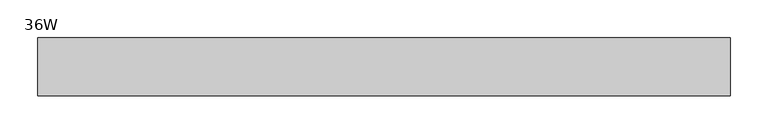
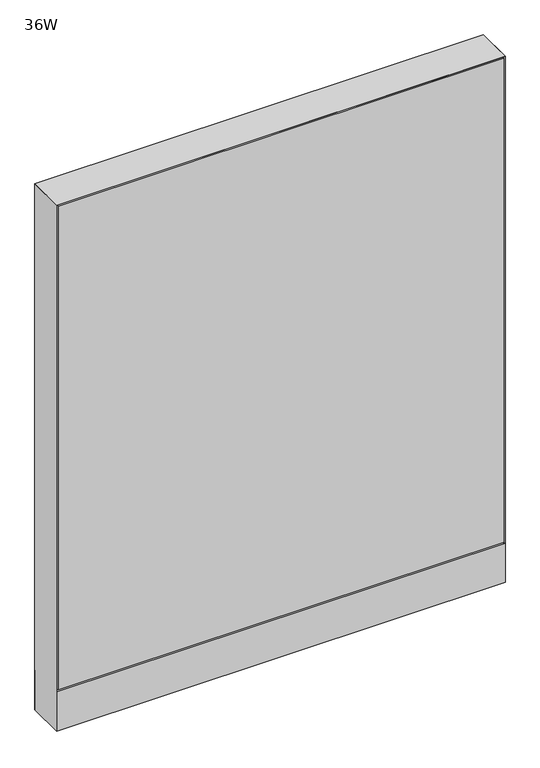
"""IFC4 building model written with IfcOpenShell, lengths in millimetres: furniture geometry, Steelcase - Montage - Frame - 45H - Enhanced Monolithic - Base Cavity : 36W."""

from ifc_helpers import new_model, si_unit, point, frame, frame_2d, origin, origin_with_axes, place, context, project, spatial, polyline, circle_curve, trimmed, segment, composite_curve, outline, extrude, faceted_brep, source, transform, mapped, element, save


def furniture_36w_5fb26eae(model_context):
    return source(origin(), model_context, "Body", "SolidModel", [
        extrude(outline(polyline([(3.175, 31.7500194), (3.175, 38.1000194), (911.225, 38.1000194), (911.225, 31.7500194), (3.175, 31.7500194)])), frame((0.0, 0.0, 92.075), z_axis=(0.0, 0.0, 1.0), x_axis=(1.0, 0.0, 0.0)), (0.0, 0.0, 1.0), 1041.4),
        extrude(outline(polyline([(3.175, -31.7500194), (911.225, -31.7500194), (911.225, -38.1000194), (3.175, -38.1000194), (3.175, -31.7500194)])), frame((0.0, 0.0, 92.075), z_axis=(0.0, 0.0, 1.0), x_axis=(1.0, 0.0, 0.0)), (0.0, 0.0, 1.0), 1041.4),
        extrude(outline(polyline([(6.350003, -31.7499985), (908.049997, -31.7499985), (914.4, -38.1000015), (0.0, -38.1000015), (6.350003, -31.7499985)])), frame((0.0, 0.0, 4.064), z_axis=(0.0, 0.0, 1.0), x_axis=(1.0, 0.0, 0.0)), (0.0, 0.0, 1.0), 84.835997),
        extrude(outline(polyline([(6.3500002, 31.7500017), (0.0, 38.1000015), (914.4, 38.1000015), (908.0500002, 31.7500017), (6.3500002, 31.7500017)])), frame((0.0, 0.0, 4.064), z_axis=(0.0, 0.0, 1.0), x_axis=(1.0, 0.0, 0.0)), (0.0, 0.0, 1.0), 84.835997),
        faceted_brep([(914.4, -38.1000015, 1136.65), (0.0, -38.1000015, 1136.65), (6.3500484, -31.749953, 1130.2999516), (908.0499516, -31.749953, 1130.2999516), (6.3500484, 31.749953, 1130.2999516), (908.0499516, 31.749953, 1130.2999516), (0.0, 38.1000015, 1136.65), (914.4, 38.1000015, 1136.65)], [[[0, 1, 2, 3]], [[3, 2, 4, 5]], [[6, 7, 5, 4]], [[1, 0, 7, 6]], [[2, 1, 6, 4]], [[0, 3, 5, 7]]]),
        extrude(outline(composite_curve([segment(trimmed(circle_curve(frame_2d((44.45, 0.0)), 15.24), [point((29.21, 0.0))], [point((59.69, 0.0))], False, "CARTESIAN"), True, "CONTINUOUS"), segment(trimmed(circle_curve(frame_2d((44.45, 0.0)), 15.24), [point((59.69, 0.0))], [point((29.21, 0.0))], False, "CARTESIAN"), True, "CONTINUOUS")], self_intersect=False)), origin_with_axes(), (0.0, 0.0, 1.0), 4.064),
        extrude(outline(composite_curve([segment(trimmed(circle_curve(frame_2d((869.95, 0.0)), 15.24), [point((854.71, 0.0))], [point((885.19, 0.0))], False, "CARTESIAN"), True, "CONTINUOUS"), segment(trimmed(circle_curve(frame_2d((869.95, 0.0)), 15.24), [point((885.19, 0.0))], [point((854.71, 0.0))], False, "CARTESIAN"), True, "CONTINUOUS")], self_intersect=False)), origin_with_axes(), (0.0, 0.0, 1.0), 4.064),
        faceted_brep([(914.4, -38.1000106, 4.064), (914.4, 38.1000015, 4.064), (914.4, 38.1000015, 1136.65), (914.4, -38.1000106, 1136.6499637), (0.0, 38.1000015, 4.064), (0.0, -38.1000015, 4.064), (0.0, -38.1000015, 1136.65), (0.0, 38.1000015, 1136.65), (908.0499879, 31.7500017, 600.202), (6.35, 31.7500017, 600.202), (6.3499998, 31.7500017, 612.902), (908.0499879, 31.7500017, 612.902), (6.35, -31.7499985, 612.902), (908.0499879, -31.7499985, 612.902), (6.350003, -31.7499985, 600.202), (908.0499879, -31.7499985, 600.202), (6.35, 31.7500015, 4.064), (6.35, -31.7500015, 4.064), (908.0499879, 31.7499894, 4.064), (908.0499879, -31.7499985, 4.064), (6.35, 31.7500015, 1130.3), (6.35, -31.7500015, 1130.3), (908.0499879, -31.7499985, 1130.2999516), (908.0499879, 31.7499895, 1130.2999516)], [[[0, 1, 2, 3]], [[4, 5, 6, 7]], [[8, 9, 10, 11]], [[11, 10, 12, 13]], [[13, 12, 14, 15]], [[9, 8, 15, 14]], [[16, 17, 5, 4]], [[18, 1, 0, 19]], [[16, 4, 7, 20, 10, 9]], [[5, 17, 14, 12, 21, 6]], [[17, 16, 9, 14]], [[12, 10, 20, 21]], [[18, 19, 15, 8]], [[11, 13, 22, 23]], [[19, 0, 3, 22, 13, 15]], [[1, 18, 8, 11, 23, 2]], [[7, 6, 21, 20]], [[3, 2, 23, 22]]]),
    ])


if __name__ == "__main__":
    model = new_model("IFC4")
    model_context = context("Model", 3, world=origin())
    ifc_project = project(units=[si_unit("LENGTHUNIT", "METRE", prefix="MILLI")], contexts=[model_context])
    site = spatial("IfcSite", under=ifc_project)
    building = spatial("IfcBuilding", under=site)
    placement = place(None, origin())
    furniture_36w_shape = furniture_36w_5fb26eae(model_context)
    element("IfcFurniture", 1, ObjectType="Steelcase - Montage - Frame - 45H - Enhanced Monolithic - Base Cavity : 36W", at=placement, inside=building, context=model_context, shape_type="MappedRepresentation", body=[
        mapped(furniture_36w_shape, transform((0.0, 0.0, 0.0), x_axis=(1.0, 0.0, 0.0), y_axis=(0.0, 1.0, 0.0), z_axis=(0.0, 0.0, 1.0))),
    ])
    save(model, "model.ifc")
